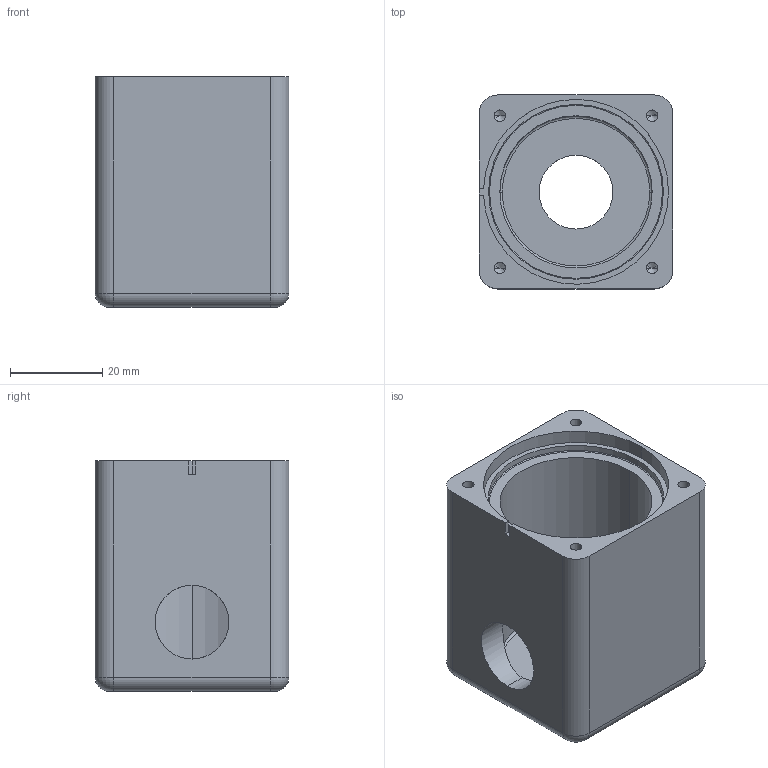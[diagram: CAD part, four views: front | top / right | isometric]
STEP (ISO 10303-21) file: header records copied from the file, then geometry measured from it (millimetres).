
FILE_DESCRIPTION (( 'STEP AP203' ), '1' );
FILE_NAME ('NAC-KF16-·§Ìå1.step', '2026-05-10T07:14:57', ( '' ), ( '' ), 'SwSTEP 2.0', 'SolidWorks 2025', '' );
FILE_SCHEMA (( 'CONFIG_CONTROL_DESIGN' ));
Length unit declared in the file: millimetre
Products named in the file (1): NAC-KF16-阀体1
Bounding box: 42 x 42 x 50 mm (x, y, z)
Volume: 44016.2 mm3; surface area: 16290.2 mm2
Topology: 1 solids, 1 shells, 53 faces, 128 edges, 74 vertices
Faces by surface type: cylinder 26, plane 11, torus 8, cone 8
Entity records: 1670 total; most frequent: CARTESIAN_POINT 345, DIRECTION 288, ORIENTED_EDGE 240, EDGE_CURVE 120, AXIS2_PLACEMENT_3D 116, VERTEX_POINT 74, EDGE_LOOP 62, CIRCLE 62
